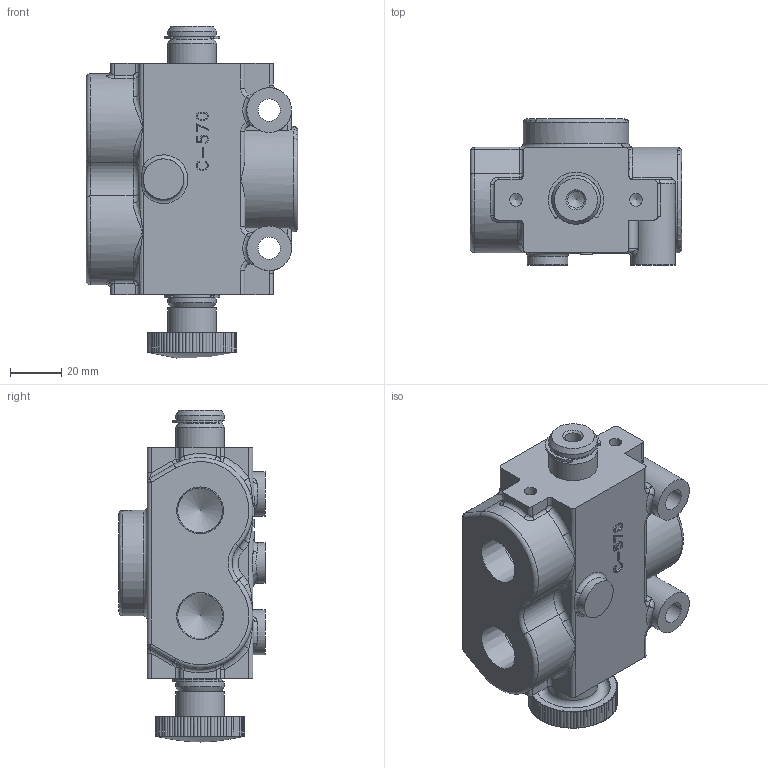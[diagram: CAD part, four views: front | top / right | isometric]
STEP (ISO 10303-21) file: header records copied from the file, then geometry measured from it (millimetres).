
FILE_DESCRIPTION((''),'2;1');
FILE_NAME('C:\Vault\Workspace\z_ShellModels\Misc_RD_RV\SS-2A1D_Shell.stp','2012-03-19T13:44:09',('PetersW'),(''),'Autodesk Inventor 2012','Autodesk Inventor 2012','');
FILE_SCHEMA(('AUTOMOTIVE_DESIGN { 1 0 10303 214 1 1 1 1 }'));
Length unit declared in the file: inch
Products named in the file (1): Part3
Bounding box: 82.55 x 57.15 x 129.71 mm (x, y, z)
Volume: 265629.8 mm3; surface area: 42577.3 mm2
Topology: 1 solids, 2 shells, 414 faces, 1106 edges, 705 vertices
Faces by surface type: plane 177, cylinder 159, torus 36, bspline 20, cone 17, sphere 5
Full cylindrical faces by diameter (mm): 4.978 x3, 6.401 x2, 8.712 x2, 9.906 x1, 15.875 x1, 17.17 x2, 17.45 x2, 17.475 x4, 19.05 x4, 41.275 x2
Entity records: 15073 total; most frequent: CARTESIAN_POINT 4715, ORIENTED_EDGE 2060, DIRECTION 2002, EDGE_CURVE 1030, AXIS2_PLACEMENT_3D 716, VERTEX_POINT 681, VECTOR 570, LINE 570
